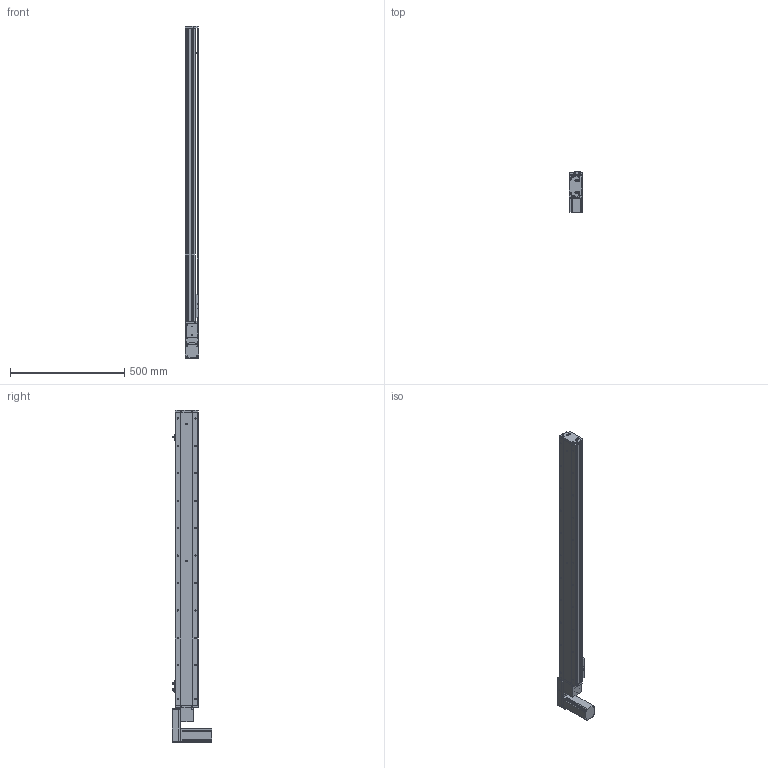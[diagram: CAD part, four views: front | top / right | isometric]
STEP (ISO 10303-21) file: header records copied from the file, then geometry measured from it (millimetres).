
FILE_DESCRIPTION (( 'STEP AP214' ), '1' );
FILE_NAME ('KSD100B-S1100-MLB-CM.STEP', '2019-08-31T01:48:11', ( '微软用户' ), ( '微软中国' ), 'SwSTEP 2.0', 'SolidWorks 2014', '' );
FILE_SCHEMA (( 'AUTOMOTIVE_DESIGN' ));
Length unit declared in the file: millimetre
Products named in the file (12): 100宽马达安装板同步带左; 100宽同步带安装板半封闭; 100宽马达安装板同步带; 100遵傷啣肮祭湍; 100宽底板半封闭同步带1100行程; KSD100B-S1100-MLB-CM; 悵誘欶奻狟殏; 100宽马达安装板连板上下折丝杆同步带; 台达ECMA－C20604AS伺服电机; U倰嫖萇EEㄜSX672; 覜茼え100遵圉猾敕; 100宽防尘板1100行程-同步带
Assembly tree (13 placements, depth 2):
  KSD100B-S1100-MLB-CM
    100宽底板半封闭同步带1100行程
    100遵傷啣肮祭湍
    100宽马达安装板同步带
    100宽同步带安装板半封闭
    100宽马达安装板同步带左
    100宽防尘板1100行程-同步带
    覜茼え100遵圉猾敕
    U倰嫖萇EEㄜSX672  x3
    台达ECMA－C20604AS伺服电机
    100宽马达安装板连板上下折丝杆同步带
    悵誘欶奻狟殏
Bounding box: 61 x 174.7 x 1453 mm (x, y, z)
Volume: 3057581.5 mm3; surface area: 1020969.3 mm2
Topology: 14 solids, 14 shells, 1503 faces, 4234 edges, 2687 vertices
Faces by surface type: cylinder 761, plane 595, cone 147
Entity records: 53727 total; most frequent: CARTESIAN_POINT 10782, DIRECTION 7354, ORIENTED_EDGE 7080, EDGE_CURVE 3540, AXIS2_PLACEMENT_3D 2693, VERTEX_POINT 2311, LINE 1968, VECTOR 1968
